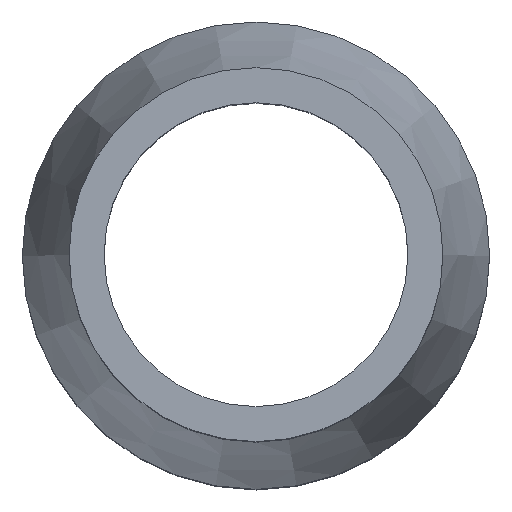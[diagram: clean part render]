
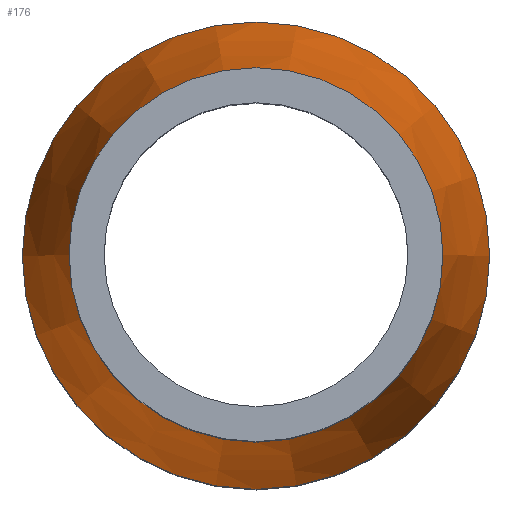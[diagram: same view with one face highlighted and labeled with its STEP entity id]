
A CAD part, top view. The second image highlights one B-rep face of the part: STEP entity #176.
In plain terms, the highlighted conical face has half-angle 11.31 degrees and reference radius 20 mm.
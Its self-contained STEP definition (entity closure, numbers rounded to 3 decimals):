
#29=FACE_BOUND($,#67,.T.);
#45=FACE_OUTER_BOUND($,#66,.T.);
#66=EDGE_LOOP($,(#136));
#67=EDGE_LOOP($,(#137));
#83=CIRCLE($,#197,20.);
#88=CIRCLE($,#206,16.);
#97=VERTEX_POINT($,#291);
#102=VERTEX_POINT($,#305);
#111=EDGE_CURVE($,#97,#97,#83,.T.);
#116=EDGE_CURVE($,#102,#102,#88,.T.);
#136=ORIENTED_EDGE($,*,*,#111,.F.);
#137=ORIENTED_EDGE($,*,*,#116,.F.);
#151=CONICAL_SURFACE($,#205,20.,11.31);
#176=ADVANCED_FACE($,(#45,#29),#151,.T.);
#197=AXIS2_PLACEMENT_3D($,#292,#240,#241);
#205=AXIS2_PLACEMENT_3D($,#304,#256,#257);
#206=AXIS2_PLACEMENT_3D($,#306,#258,#259);
#240=DIRECTION('center_axis',(0.,0.,-1.));
#241=DIRECTION('ref_axis',(-1.,0.,0.));
#256=DIRECTION('center_axis',(0.,0.,-1.));
#257=DIRECTION('ref_axis',(1.,0.,0.));
#258=DIRECTION('center_axis',(0.,0.,1.));
#259=DIRECTION('ref_axis',(-1.,0.,0.));
#291=CARTESIAN_POINT('',(20.,0.,30.));
#292=CARTESIAN_POINT('Origin',(0.,0.,30.));
#304=CARTESIAN_POINT('Origin',(0.,0.,30.));
#305=CARTESIAN_POINT('',(16.,0.,50.));
#306=CARTESIAN_POINT('Origin',(0.,0.,50.));
